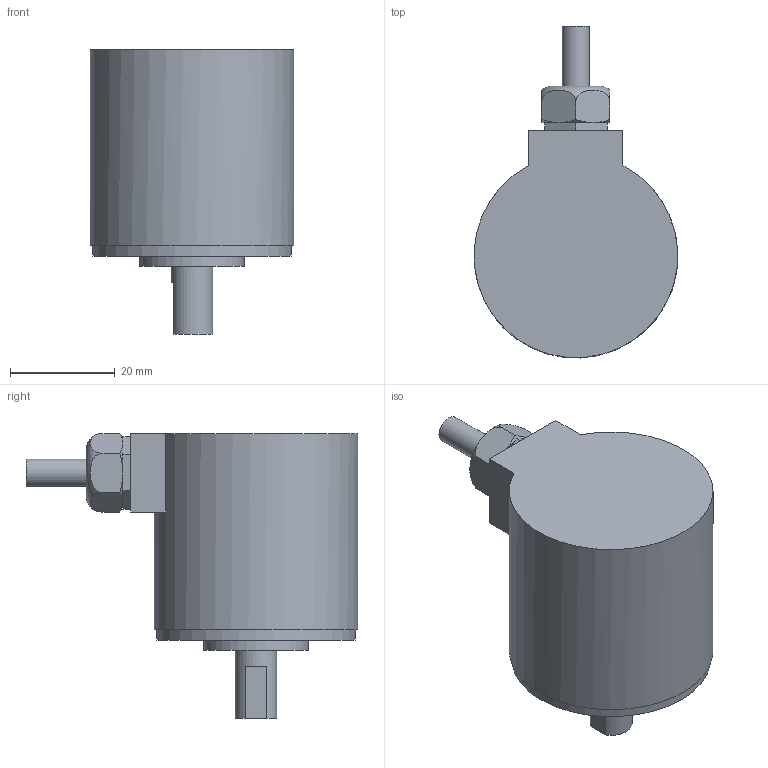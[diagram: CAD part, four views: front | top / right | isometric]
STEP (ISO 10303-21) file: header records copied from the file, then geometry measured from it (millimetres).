
FILE_DESCRIPTION(('OVF-2MC-800'),'2;1');
FILE_NAME('C:\Users\user\Documents\Inventor\配布用外径データ\配布用STEP\OVF-2MC-800.stp','2019-05-09T11:15:02',('Nemicon Corp.'),('Nemicon Corp.'),'Autodesk Inventor 2011','Autodesk Inventor 2011','');
FILE_SCHEMA(('AUTOMOTIVE_DESIGN { 1 0 10303 214 1 1 1 1 }'));
Length unit declared in the file: millimetre
Products named in the file (1): OVF-2MC-800
Bounding box: 38.96 x 63.48 x 54.51 mm (x, y, z)
Volume: 51073.9 mm3; surface area: 8760.5 mm2
Topology: 1 solids, 1 shells, 55 faces, 128 edges, 80 vertices
Faces by surface type: plane 37, cone 9, cylinder 8, torus 1
Full cylindrical faces by diameter (mm): 2.459 x3, 5.2 x1, 8 x1, 20 x1, 38 x1, 39 x1
Entity records: 1556 total; most frequent: CARTESIAN_POINT 374, DIRECTION 242, ORIENTED_EDGE 222, EDGE_CURVE 111, AXIS2_PLACEMENT_3D 93, VERTEX_POINT 75, EDGE_LOOP 72, VECTOR 56
